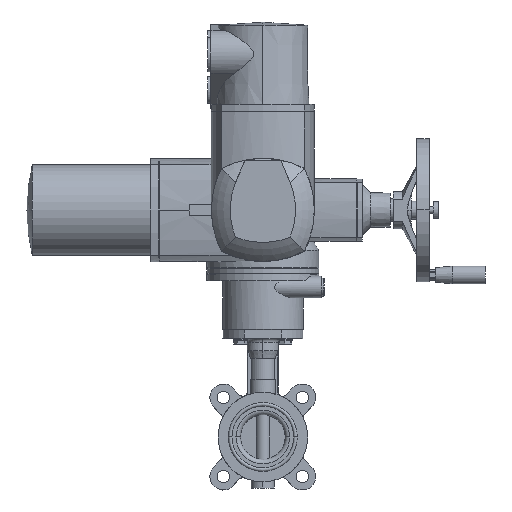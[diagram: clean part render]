
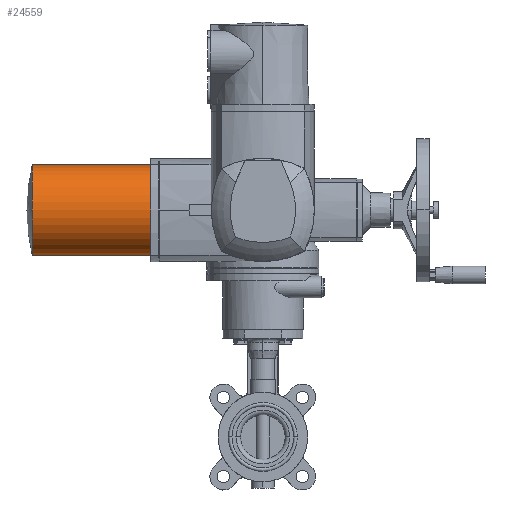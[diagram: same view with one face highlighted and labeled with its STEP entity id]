
A CAD part, top view. The second image highlights one B-rep face of the part: STEP entity #24559.
In plain terms, the highlighted cylindrical face has radius 50.5 mm (diameter 101 mm), a partial arc.
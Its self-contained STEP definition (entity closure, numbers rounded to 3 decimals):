
#312 = CARTESIAN_POINT ( 'NONE',  ( -125.5, -40., 184. ) ) ;
#2025 = ORIENTED_EDGE ( 'NONE', *, *, #18098, .T. ) ;
#2431 = DIRECTION ( 'NONE',  ( 1., 0., 0. ) ) ;
#2714 = DIRECTION ( 'NONE',  ( 0., 0., 1. ) ) ;
#3390 = DIRECTION ( 'NONE',  ( 1., 0., 0. ) ) ;
#5783 = DIRECTION ( 'NONE',  ( 0., 0., -1. ) ) ;
#6137 = VERTEX_POINT ( 'NONE', #21178 ) ;
#7581 = LINE ( 'NONE', #20583, #9392 ) ;
#7754 = DIRECTION ( 'NONE',  ( 1., 0., 0. ) ) ;
#8397 = CIRCLE ( 'NONE', #27376, 50.5 ) ;
#8541 = FACE_OUTER_BOUND ( 'NONE', #15184, .T. ) ;
#8682 = ORIENTED_EDGE ( 'NONE', *, *, #20411, .F. ) ;
#9392 = VECTOR ( 'NONE', #18427, 1000. ) ;
#10787 = ORIENTED_EDGE ( 'NONE', *, *, #15794, .T. ) ;
#11841 = DIRECTION ( 'NONE',  ( 0., 0., 1. ) ) ;
#12525 = CARTESIAN_POINT ( 'NONE',  ( -257.519, -40., 133.5 ) ) ;
#13120 = CARTESIAN_POINT ( 'NONE',  ( -257.519, -40., 83. ) ) ;
#13217 = VERTEX_POINT ( 'NONE', #13120 ) ;
#13346 = ORIENTED_EDGE ( 'NONE', *, *, #16570, .T. ) ;
#13703 = LINE ( 'NONE', #23925, #25844 ) ;
#14019 = VERTEX_POINT ( 'NONE', #312 ) ;
#15184 = EDGE_LOOP ( 'NONE', ( #2025, #17017, #13346, #10787, #8682 ) ) ;
#15794 = EDGE_CURVE ( 'NONE', #25533, #14019, #25314, .T. ) ;
#16544 = CARTESIAN_POINT ( 'NONE',  ( -125.5, -40., 83. ) ) ;
#16570 = EDGE_CURVE ( 'NONE', #13217, #25533, #13703, .T. ) ;
#17017 = ORIENTED_EDGE ( 'NONE', *, *, #25987, .T. ) ;
#17128 = CYLINDRICAL_SURFACE ( 'NONE', #17677, 50.5 ) ;
#17677 = AXIS2_PLACEMENT_3D ( 'NONE', #25948, #21958, #2714 ) ;
#18098 = EDGE_CURVE ( 'NONE', #24978, #6137, #8397, .T. ) ;
#18427 = DIRECTION ( 'NONE',  ( 1., 0., 0. ) ) ;
#18777 = CARTESIAN_POINT ( 'NONE',  ( -257.519, -40., 184. ) ) ;
#18779 = CARTESIAN_POINT ( 'NONE',  ( -257.519, -40., 133.5 ) ) ;
#18967 = AXIS2_PLACEMENT_3D ( 'NONE', #20923, #21207, #5783 ) ;
#20411 = EDGE_CURVE ( 'NONE', #24978, #14019, #7581, .T. ) ;
#20583 = CARTESIAN_POINT ( 'NONE',  ( -97.021, -40., 184. ) ) ;
#20876 = CIRCLE ( 'NONE', #26757, 50.5 ) ;
#20923 = CARTESIAN_POINT ( 'NONE',  ( -125.5, -40., 133.5 ) ) ;
#21175 = DIRECTION ( 'NONE',  ( 0., 0., 1. ) ) ;
#21178 = CARTESIAN_POINT ( 'NONE',  ( -257.519, -90.5, 133.5 ) ) ;
#21207 = DIRECTION ( 'NONE',  ( -1., 0., 0. ) ) ;
#21958 = DIRECTION ( 'NONE',  ( 1., 0., 0. ) ) ;
#23925 = CARTESIAN_POINT ( 'NONE',  ( -97.021, -40., 83. ) ) ;
#24559 = ADVANCED_FACE ( 'NONE', ( #8541 ), #17128, .T. ) ;
#24978 = VERTEX_POINT ( 'NONE', #18777 ) ;
#25314 = CIRCLE ( 'NONE', #18967, 50.5 ) ;
#25533 = VERTEX_POINT ( 'NONE', #16544 ) ;
#25844 = VECTOR ( 'NONE', #2431, 1000. ) ;
#25948 = CARTESIAN_POINT ( 'NONE',  ( -97.021, -40., 133.5 ) ) ;
#25987 = EDGE_CURVE ( 'NONE', #6137, #13217, #20876, .T. ) ;
#26757 = AXIS2_PLACEMENT_3D ( 'NONE', #12525, #7754, #21175 ) ;
#27376 = AXIS2_PLACEMENT_3D ( 'NONE', #18779, #3390, #11841 ) ;
